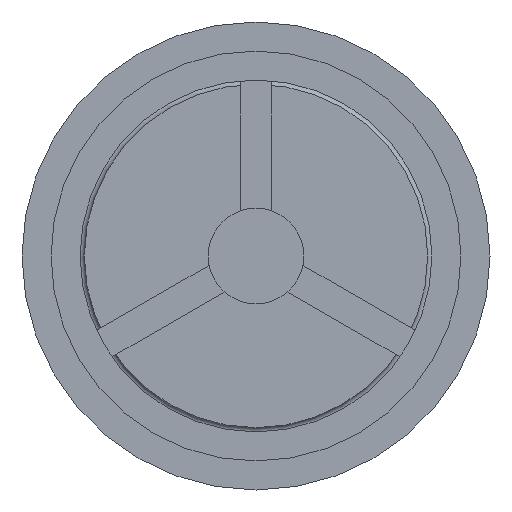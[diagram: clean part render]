
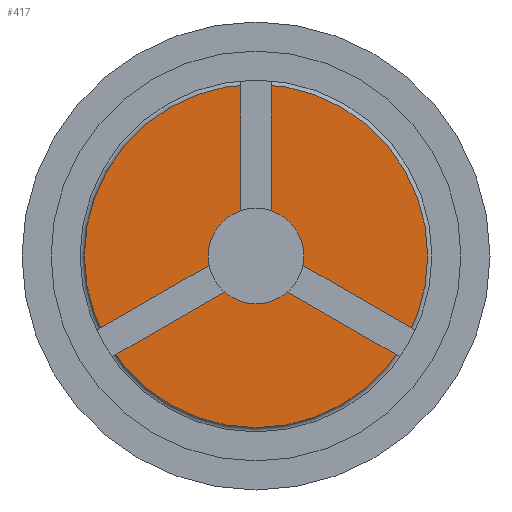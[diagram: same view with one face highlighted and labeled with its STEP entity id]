
A CAD part, front view. The second image highlights one B-rep face of the part: STEP entity #417.
In plain terms, the highlighted planar face has unit normal (0, -1, 0).
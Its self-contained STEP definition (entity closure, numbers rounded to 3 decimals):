
#417=ADVANCED_FACE('',(#11297,#11299),#11301,.F.);
#11297=FACE_BOUND('',#11298,.T.);
#11298=EDGE_LOOP('',(#18046,#18047));
#11299=FACE_BOUND('',#11300,.T.);
#11300=EDGE_LOOP('',(#18048));
#11301=PLANE('',#11302);
#11302=AXIS2_PLACEMENT_3D('',#11303,#11304,#11305);
#11303=CARTESIAN_POINT('',(2664.713,1616.165,0.));
#11304=DIRECTION('',(0.,1.,0.));
#11305=DIRECTION('',(0.,0.,1.));
#18046=ORIENTED_EDGE('',*,*,#23014,.T.);
#18047=ORIENTED_EDGE('',*,*,#23013,.T.);
#18048=ORIENTED_EDGE('',*,*,#23012,.T.);
#23012=EDGE_CURVE('',#26410,#26410,#26411,.T.);
#23013=EDGE_CURVE('',#26412,#26413,#26414,.T.);
#23014=EDGE_CURVE('',#26413,#26412,#26415,.T.);
#26410=VERTEX_POINT('',#34385);
#26411=CIRCLE('',#34386,11.);
#26412=VERTEX_POINT('',#34390);
#26413=VERTEX_POINT('',#34391);
#26414=CIRCLE('',#34392,100.5);
#26415=CIRCLE('',#34396,100.5);
#34385=CARTESIAN_POINT('',(2675.713,1616.165,0.));
#34386=AXIS2_PLACEMENT_3D('',#34387,#34388,#34389);
#34387=CARTESIAN_POINT('',(2664.713,1616.165,0.));
#34388=DIRECTION('',(0.,1.,0.));
#34389=DIRECTION('',(1.,0.,0.));
#34390=CARTESIAN_POINT('',(2664.713,1616.165,100.5));
#34391=CARTESIAN_POINT('',(2765.213,1616.165,0.));
#34392=AXIS2_PLACEMENT_3D('',#34393,#34394,#34395);
#34393=CARTESIAN_POINT('',(2664.713,1616.165,0.));
#34394=DIRECTION('',(0.,-1.,0.));
#34395=DIRECTION('',(0.,0.,1.));
#34396=AXIS2_PLACEMENT_3D('',#34397,#34398,#34399);
#34397=CARTESIAN_POINT('',(2664.713,1616.165,0.));
#34398=DIRECTION('',(0.,-1.,0.));
#34399=DIRECTION('',(1.,0.,0.));
